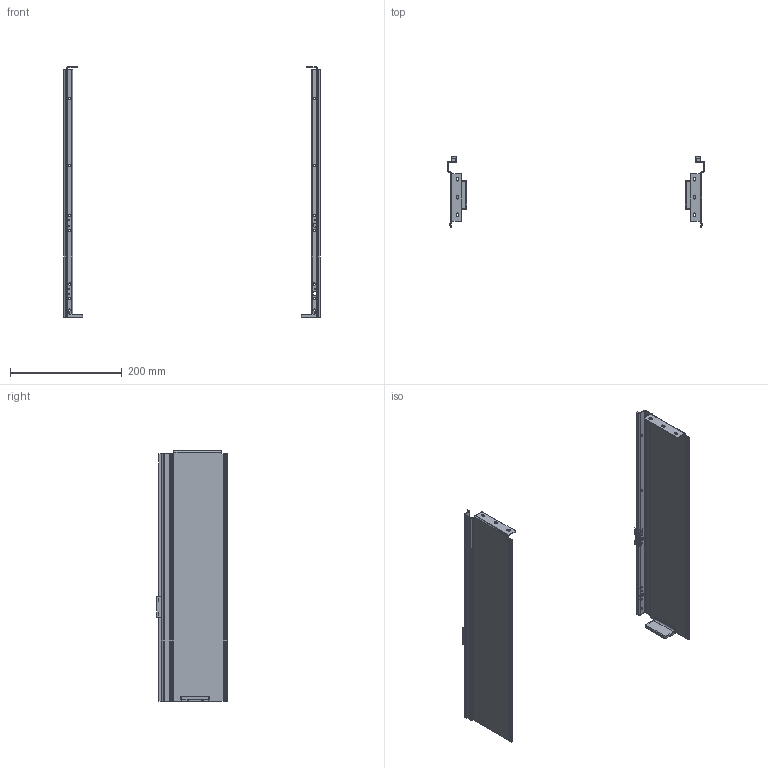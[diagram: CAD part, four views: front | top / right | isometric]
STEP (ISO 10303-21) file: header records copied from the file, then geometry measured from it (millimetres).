
FILE_DESCRIPTION(/* description */ (''),/* implementation_level */ '2;1');
FILE_NAME(/* name */ 'C:\Users\dmitruk\Documents\WORK\\X2\041D0410041F042004100412041B042F042E042904180415\X0\\ULTRA SLIM\\X2\0411043E043A043E04320438043D043A0438\X0\ Q-Type\Боковинки Q-Type-450 средний.stp',/* time_stamp */ '2022-07-28T10:09:14+03:00',/* author */ ('dmitruk'),/* organization */ (''),/* preprocessor_version */ 'ST-DEVELOPER v16.5',/* originating_system */ 'Autodesk Inventor 2017',/* authorisation */ '');
FILE_SCHEMA (('AUTOMOTIVE_DESIGN { 1 0 10303 214 3 1 1 }'));
Length unit declared in the file: millimetre
Products named in the file (3): Боковинки Q-Type; Боковина USLIM; Боковина USLIM L
Assembly tree (2 placements, depth 2):
  Боковинки Q-Type
    Боковина USLIM
    Боковина USLIM L
Bounding box: 459.6 x 128.4 x 448 mm (x, y, z)
Volume: 196176.7 mm3; surface area: 280346.1 mm2
Topology: 8 solids, 8 shells, 480 faces, 1328 edges, 868 vertices
Faces by surface type: plane 210, cylinder 198, torus 36, bspline 28, sphere 8
Full cylindrical faces by diameter (mm): 2 x6, 4.2 x18, 6 x2, 7 x2, 8 x4
Entity records: 16200 total; most frequent: CARTESIAN_POINT 3154, DIRECTION 2702, ORIENTED_EDGE 2548, EDGE_CURVE 1274, AXIS2_PLACEMENT_3D 979, VERTEX_POINT 846, LINE 744, VECTOR 744
